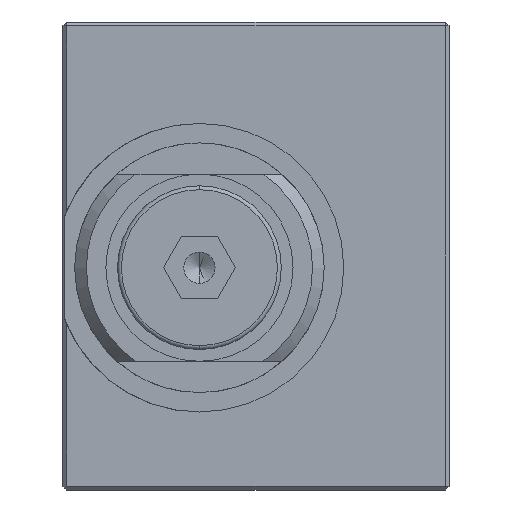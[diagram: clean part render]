
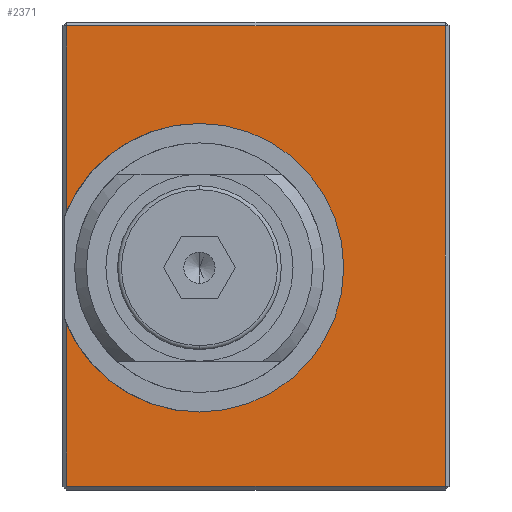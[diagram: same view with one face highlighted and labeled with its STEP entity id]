
A CAD part, left-side view. The second image highlights one B-rep face of the part: STEP entity #2371.
In plain terms, the highlighted planar face has unit normal (-1, 0, 0).
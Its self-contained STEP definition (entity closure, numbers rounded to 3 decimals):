
#371 = ORIENTED_EDGE ( 'NONE', *, *, #3737, .T. ) ;
#674 = DIRECTION ( 'NONE',  ( 1., 0., 0. ) ) ;
#890 = CARTESIAN_POINT ( 'NONE',  ( 0., -24.75, -29.5 ) ) ;
#954 = CARTESIAN_POINT ( 'NONE',  ( 0., 7.25, -20. ) ) ;
#1125 = VERTEX_POINT ( 'NONE', #4460 ) ;
#1140 = AXIS2_PLACEMENT_3D ( 'NONE', #1388, #1409, #1420 ) ;
#1183 = PLANE ( 'NONE',  #1140 ) ;
#1201 = DIRECTION ( 'NONE',  ( 0., 0., -1. ) ) ;
#1243 = ORIENTED_EDGE ( 'NONE', *, *, #5164, .T. ) ;
#1265 = AXIS2_PLACEMENT_3D ( 'NONE', #1837, #674, #3817 ) ;
#1362 = EDGE_CURVE ( 'NONE', #1125, #2110, #2589, .T. ) ;
#1388 = CARTESIAN_POINT ( 'NONE',  ( 0., 24.75, -30. ) ) ;
#1409 = DIRECTION ( 'NONE',  ( -1., 0., 0. ) ) ;
#1420 = DIRECTION ( 'NONE',  ( 0., 0., 1. ) ) ;
#1466 = VERTEX_POINT ( 'NONE', #5345 ) ;
#1493 = LINE ( 'NONE', #1616, #5107 ) ;
#1588 = VECTOR ( 'NONE', #5925, 1000. ) ;
#1616 = CARTESIAN_POINT ( 'NONE',  ( 0., 24.25, -30. ) ) ;
#1624 = CARTESIAN_POINT ( 'NONE',  ( 0., 24.75, 29.5 ) ) ;
#1706 = VERTEX_POINT ( 'NONE', #4254 ) ;
#1760 = LINE ( 'NONE', #4146, #1588 ) ;
#1837 = CARTESIAN_POINT ( 'NONE',  ( 0., 7.25, -1.5 ) ) ;
#2019 = EDGE_CURVE ( 'NONE', #6569, #3411, #3704, .T. ) ;
#2048 = CARTESIAN_POINT ( 'NONE',  ( 0., 24.25, -8.797 ) ) ;
#2110 = VERTEX_POINT ( 'NONE', #954 ) ;
#2371 = ADVANCED_FACE ( 'NONE', ( #4392 ), #1183, .T. ) ;
#2396 = ORIENTED_EDGE ( 'NONE', *, *, #2019, .T. ) ;
#2443 = ORIENTED_EDGE ( 'NONE', *, *, #5246, .T. ) ;
#2505 = CIRCLE ( 'NONE', #1265, 18.5 ) ;
#2517 = LINE ( 'NONE', #4148, #5773 ) ;
#2589 = CIRCLE ( 'NONE', #4942, 18.5 ) ;
#2749 = DIRECTION ( 'NONE',  ( 0., 0., -1. ) ) ;
#2863 = DIRECTION ( 'NONE',  ( 0., -1., 0. ) ) ;
#2873 = DIRECTION ( 'NONE',  ( 0., 1., 0. ) ) ;
#2918 = VERTEX_POINT ( 'NONE', #5188 ) ;
#2984 = LINE ( 'NONE', #890, #6331 ) ;
#3273 = ORIENTED_EDGE ( 'NONE', *, *, #1362, .T. ) ;
#3297 = CARTESIAN_POINT ( 'NONE',  ( 0., 24.25, 29.5 ) ) ;
#3411 = VERTEX_POINT ( 'NONE', #3297 ) ;
#3412 = EDGE_CURVE ( 'NONE', #2110, #6119, #6160, .T. ) ;
#3504 = CARTESIAN_POINT ( 'NONE',  ( 0., 7.25, -1.5 ) ) ;
#3520 = DIRECTION ( 'NONE',  ( 0., 0., 1. ) ) ;
#3528 = DIRECTION ( 'NONE',  ( 1., 0., 0. ) ) ;
#3650 = CARTESIAN_POINT ( 'NONE',  ( 0., 7.25, -1.5 ) ) ;
#3704 = LINE ( 'NONE', #1624, #6018 ) ;
#3737 = EDGE_CURVE ( 'NONE', #6119, #2918, #1493, .T. ) ;
#3817 = DIRECTION ( 'NONE',  ( 0., 0., 1. ) ) ;
#3820 = EDGE_CURVE ( 'NONE', #3411, #1466, #2517, .T. ) ;
#3915 = ORIENTED_EDGE ( 'NONE', *, *, #3412, .T. ) ;
#4119 = AXIS2_PLACEMENT_3D ( 'NONE', #3504, #3528, #3520 ) ;
#4146 = CARTESIAN_POINT ( 'NONE',  ( 0., -24.25, 30. ) ) ;
#4148 = CARTESIAN_POINT ( 'NONE',  ( 0., 24.25, 4.5 ) ) ;
#4254 = CARTESIAN_POINT ( 'NONE',  ( 0., -24.25, -29.5 ) ) ;
#4392 = FACE_OUTER_BOUND ( 'NONE', #4591, .T. ) ;
#4460 = CARTESIAN_POINT ( 'NONE',  ( 0., 7.25, 17. ) ) ;
#4508 = DIRECTION ( 'NONE',  ( 1., 0., 0. ) ) ;
#4591 = EDGE_LOOP ( 'NONE', ( #1243, #3273, #3915, #371, #2443, #5142, #2396, #4655 ) ) ;
#4655 = ORIENTED_EDGE ( 'NONE', *, *, #3820, .T. ) ;
#4942 = AXIS2_PLACEMENT_3D ( 'NONE', #3650, #4508, #5161 ) ;
#5107 = VECTOR ( 'NONE', #1201, 1000. ) ;
#5142 = ORIENTED_EDGE ( 'NONE', *, *, #5581, .T. ) ;
#5161 = DIRECTION ( 'NONE',  ( 0., 0., 1. ) ) ;
#5164 = EDGE_CURVE ( 'NONE', #1466, #1125, #2505, .T. ) ;
#5188 = CARTESIAN_POINT ( 'NONE',  ( 0., 24.25, -29.5 ) ) ;
#5246 = EDGE_CURVE ( 'NONE', #2918, #1706, #2984, .T. ) ;
#5345 = CARTESIAN_POINT ( 'NONE',  ( 0., 24.25, 5.797 ) ) ;
#5581 = EDGE_CURVE ( 'NONE', #1706, #6569, #1760, .T. ) ;
#5773 = VECTOR ( 'NONE', #2749, 1000. ) ;
#5925 = DIRECTION ( 'NONE',  ( 0., 0., 1. ) ) ;
#6007 = CARTESIAN_POINT ( 'NONE',  ( 0., -24.25, 29.5 ) ) ;
#6018 = VECTOR ( 'NONE', #2873, 1000. ) ;
#6119 = VERTEX_POINT ( 'NONE', #2048 ) ;
#6160 = CIRCLE ( 'NONE', #4119, 18.5 ) ;
#6331 = VECTOR ( 'NONE', #2863, 1000. ) ;
#6569 = VERTEX_POINT ( 'NONE', #6007 ) ;
